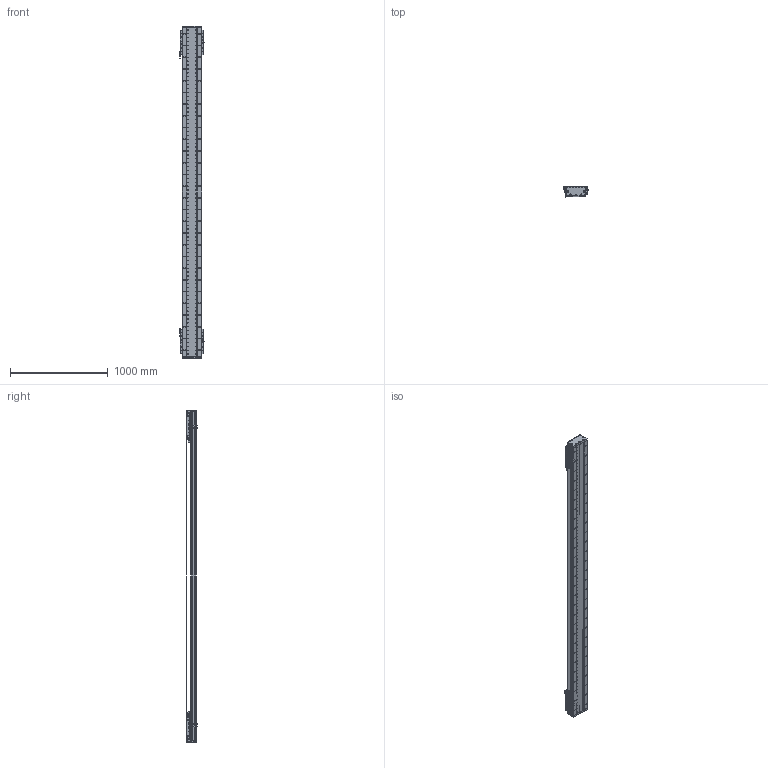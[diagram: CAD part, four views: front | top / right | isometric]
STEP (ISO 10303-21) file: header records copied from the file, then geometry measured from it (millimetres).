
FILE_DESCRIPTION (( 'STEP AP203' ), '1' );
FILE_NAME ('DA-C195-2-C3-T2780-C010-0.2 眻盄萇儂.STEP', '2025-08-15T00:52:08', ( '' ), ( '' ), 'SwSTEP 2.0', 'SolidWorks 2019', '' );
FILE_SCHEMA (( 'CONFIG_CONTROL_DESIGN' ));
Length unit declared in the file: millimetre
Products named in the file (19): DA195詩湍菜輸; DKW168-HXJ-ZJ-00 笢潔滅袉砎蝶; 葩璃 DA95-GT-T-00; LMT黍杅芛; DA95-HXJ-00 遣喳砎蝶; DKW-GYP-ZJ-00 笢潔嫖萇覜茼え; DKW-KGZ-ZJ-00 中间光电开关支架; DA195詩湍裔啣; DA-C195-GD-DB-H-00 傷啣; PM-T45ㄗ侂狟ㄘ; DA-C195-2-C3-T2780-C010-0.2 眻盄萇儂; DA195詩湍郪璃; IU-CU195-L-00 菁釱(L3360); DA195詩湍嶺輸; IU-CU195-L 菁釱絳寢; CU195-C3賑輸-俋楷; PM-Y65嫖萇羲壽郪璃; MS200 棠掑喜S315-T240; DA165-GYP-00 光电感应片(默认)
Assembly tree (37 placements, depth 3):
  DA-C195-2-C3-T2780-C010-0.2 眻盄萇儂
    DA195詩湍郪璃
      DA195詩湍菜輸  x2
      DA195詩湍裔啣
      DA195詩湍嶺輸  x2
      DA95-HXJ-00 遣喳砎蝶  x8
      DA-C195-GD-DB-H-00 傷啣  x2
    IU-CU195-L 菁釱絳寢
      IU-CU195-L-00 菁釱(L3360)
      葩璃 DA95-GT-T-00  x4
    LMT黍杅芛  x2
    MS200 棠掑喜S315-T240
    PM-T45ㄗ侂狟ㄘ  x4
    DA165-GYP-00 光电感应片(默认)  x2
    PM-Y65嫖萇羲壽郪璃
    DKW168-HXJ-ZJ-00 笢潔滅袉砎蝶
    DKW-GYP-ZJ-00 笢潔嫖萇覜茼え
    DKW-KGZ-ZJ-00 中间光电开关支架
    CU195-C3賑輸-俋楷  x2
Bounding box: 258.2 x 115.45 x 3400 mm (x, y, z)
Volume: 20950288.5 mm3; surface area: 6088837.1 mm2
Topology: 154 solids, 218 shells, 7209 faces, 19647 edges, 12293 vertices
Faces by surface type: cylinder 3594, plane 2563, cone 884, torus 88, sphere 72, bspline 8
Entity records: 166179 total; most frequent: CARTESIAN_POINT 46461, ORIENTED_EDGE 25310, DIRECTION 23680, EDGE_CURVE 12655, AXIS2_PLACEMENT_3D 8749, VERTEX_POINT 8218, LINE 6182, VECTOR 6182
